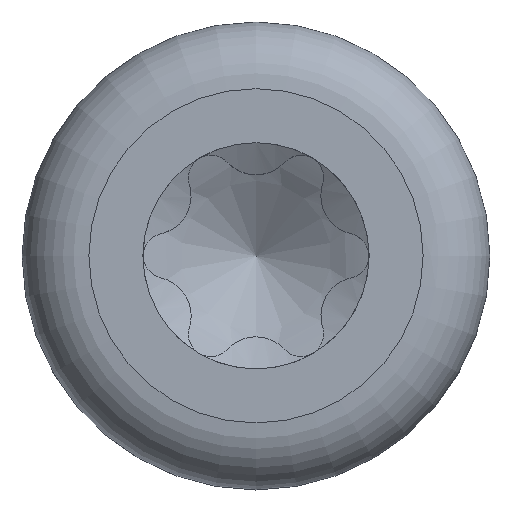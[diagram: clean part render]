
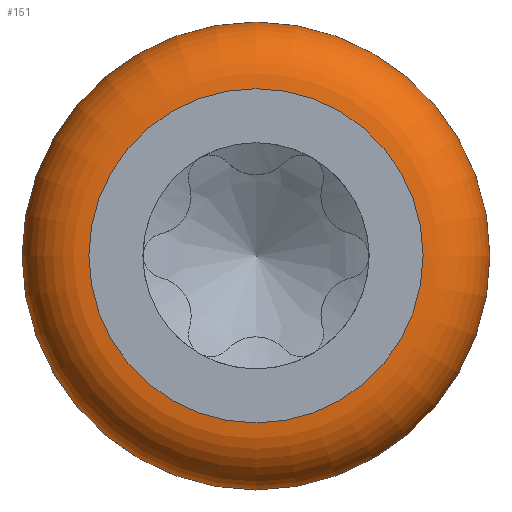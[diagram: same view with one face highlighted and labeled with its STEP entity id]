
A CAD part, top view. The second image highlights one B-rep face of the part: STEP entity #151.
In plain terms, the highlighted toroidal (fillet/blend) face has major radius 5 mm and minor radius 2 mm.
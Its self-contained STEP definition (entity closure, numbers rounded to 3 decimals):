
#118=TOROIDAL_SURFACE('',#694,5.,2.);
#129=FACE_BOUND('',#232,.T.);
#130=FACE_BOUND('',#233,.T.);
#151=ADVANCED_FACE('',(#129,#130),#118,.T.);
#232=EDGE_LOOP('',(#320));
#233=EDGE_LOOP('',(#321));
#281=CIRCLE('',#691,7.);
#282=CIRCLE('',#693,5.);
#320=ORIENTED_EDGE('',*,*,#559,.F.);
#321=ORIENTED_EDGE('',*,*,#558,.T.);
#492=VERTEX_POINT('',#1394);
#493=VERTEX_POINT('',#1397);
#558=EDGE_CURVE('',#492,#492,#281,.T.);
#559=EDGE_CURVE('',#493,#493,#282,.T.);
#691=AXIS2_PLACEMENT_3D('',#1393,#749,#750);
#693=AXIS2_PLACEMENT_3D('',#1396,#753,#754);
#694=AXIS2_PLACEMENT_3D('',#1398,#755,#756);
#749=DIRECTION('',(0.,0.,1.));
#750=DIRECTION('',(1.,0.,0.));
#753=DIRECTION('',(0.,0.,1.));
#754=DIRECTION('',(1.,0.,0.));
#755=DIRECTION('',(0.,0.,1.));
#756=DIRECTION('',(1.,0.,0.));
#1393=CARTESIAN_POINT('',(0.,0.,3.));
#1394=CARTESIAN_POINT('',(7.,0.,3.));
#1396=CARTESIAN_POINT('',(0.,0.,5.));
#1397=CARTESIAN_POINT('',(5.,0.,5.));
#1398=CARTESIAN_POINT('',(0.,0.,3.));
